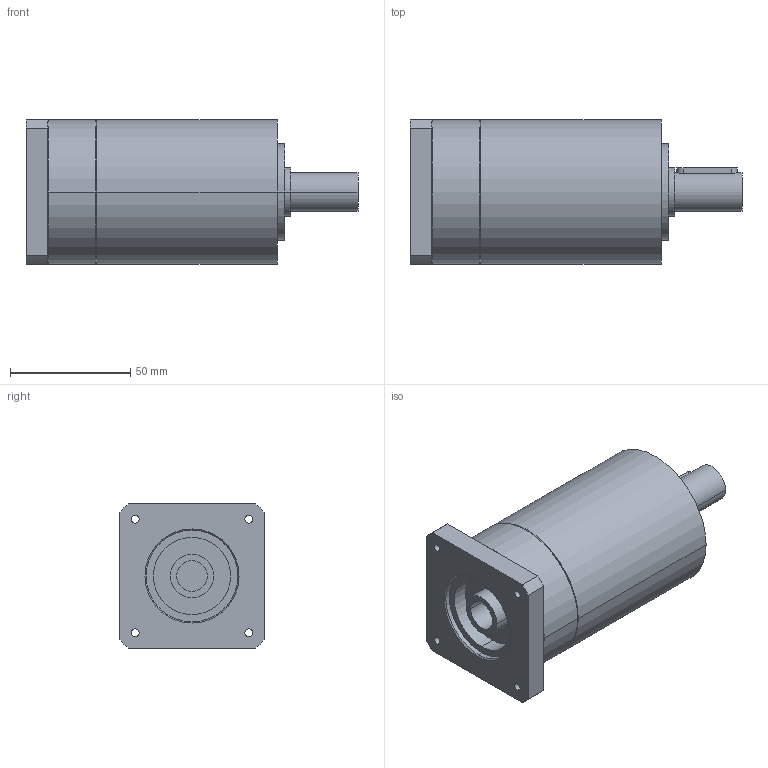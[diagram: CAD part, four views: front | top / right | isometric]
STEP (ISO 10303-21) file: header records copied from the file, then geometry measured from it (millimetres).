
FILE_DESCRIPTION(('CoCreate Modeling STEP Export'),'2;1');
FILE_NAME('GPR75_ig-9-12-16-20-24-30-36_16_B14_12.7_P28.stp','2014-08-25T16:02:00',(''),(''),'CoCreate Modeling STEP processor for AP214 (Solid Model)','CoCreate Modeling 16.00C 25-Feb-2009 (C) Parametric Technology GmbH','');
FILE_SCHEMA(('AUTOMOTIVE_DESIGN { 1 0 10303 214 1 1 1 1 }'));
Length unit declared in the file: millimetre
Products named in the file (2): GPR75_ig-9-12-16-20-24-30-36_16_B14_12.7_P28
Assembly tree (1 placements, depth 2):
  GPR75_ig-9-12-16-20-24-30-36_16_B14_12.7_P28
    GPR75_ig-9-12-16-20-24-30-36_16_B14_12.7_P28
Bounding box: 137.9 x 60 x 60 mm (x, y, z)
Volume: 301014.9 mm3; surface area: 32977.8 mm2
Topology: 1 solids, 1 shells, 72 faces, 188 edges, 130 vertices
Faces by surface type: cylinder 42, plane 22, cone 8
Entity records: 1959 total; most frequent: ORIENTED_EDGE 372, CARTESIAN_POINT 362, DIRECTION 268, EDGE_CURVE 186, VERTEX_POINT 130, AXIS2_PLACEMENT_3D 100, EDGE_LOOP 94, FACE_OUTER_BOUND 72
